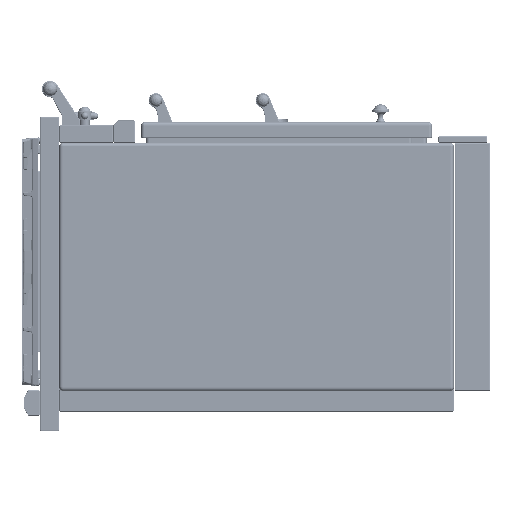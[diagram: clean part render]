
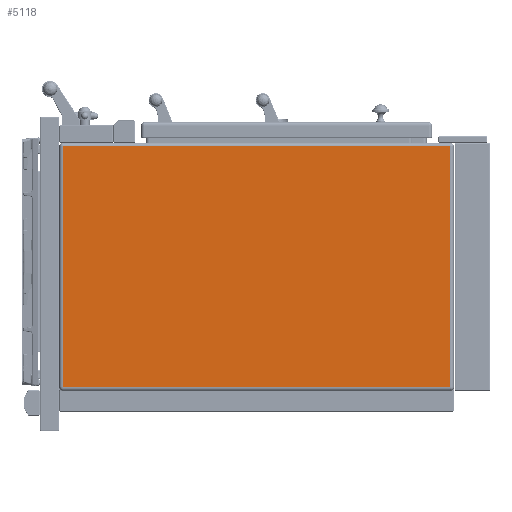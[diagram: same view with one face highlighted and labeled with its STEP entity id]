
A CAD part, left-side view. The second image highlights one B-rep face of the part: STEP entity #5118.
In plain terms, the highlighted planar face has unit normal (-1, 0, 0).
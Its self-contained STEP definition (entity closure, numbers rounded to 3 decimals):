
#1086=DIRECTION('',(0.,1.,0.));
#1087=VECTOR('',#1086,801.);
#1088=CARTESIAN_POINT('',(-700.,82.,249.));
#1089=LINE('',#1088,#1087);
#1090=DIRECTION('',(0.,0.,1.));
#1091=VECTOR('',#1090,498.);
#1092=CARTESIAN_POINT('',(-700.,82.,-249.));
#1093=LINE('',#1092,#1091);
#1094=DIRECTION('',(0.,-1.,0.));
#1095=VECTOR('',#1094,801.);
#1096=CARTESIAN_POINT('',(-700.,883.,-249.));
#1097=LINE('',#1096,#1095);
#1098=DIRECTION('',(0.,0.,-1.));
#1099=VECTOR('',#1098,498.);
#1100=CARTESIAN_POINT('',(-700.,883.,249.));
#1101=LINE('',#1100,#1099);
#2891=CARTESIAN_POINT('',(-700.,82.,249.));
#2892=CARTESIAN_POINT('',(-700.,883.,249.));
#2893=VERTEX_POINT('',#2891);
#2894=VERTEX_POINT('',#2892);
#2895=CARTESIAN_POINT('',(-700.,82.,-249.));
#2896=VERTEX_POINT('',#2895);
#2919=CARTESIAN_POINT('',(-700.,883.,-249.));
#2920=VERTEX_POINT('',#2919);
#5104=CARTESIAN_POINT('',(-700.,0.,0.));
#5105=DIRECTION('',(1.,0.,0.));
#5106=DIRECTION('',(0.,0.,-1.));
#5107=AXIS2_PLACEMENT_3D('',#5104,#5105,#5106);
#5108=PLANE('',#5107);
#5110=ORIENTED_EDGE('',*,*,#5109,.F.);
#5112=ORIENTED_EDGE('',*,*,#5111,.F.);
#5113=ORIENTED_EDGE('',*,*,#5088,.F.);
#5115=ORIENTED_EDGE('',*,*,#5114,.F.);
#5116=EDGE_LOOP('',(#5110,#5112,#5113,#5115));
#5117=FACE_OUTER_BOUND('',#5116,.F.);
#5088=EDGE_CURVE('',#2920,#2896,#1097,.T.);
#5109=EDGE_CURVE('',#2893,#2894,#1089,.T.);
#5111=EDGE_CURVE('',#2896,#2893,#1093,.T.);
#5114=EDGE_CURVE('',#2894,#2920,#1101,.T.);
#5118=ADVANCED_FACE('',(#5117),#5108,.F.);
